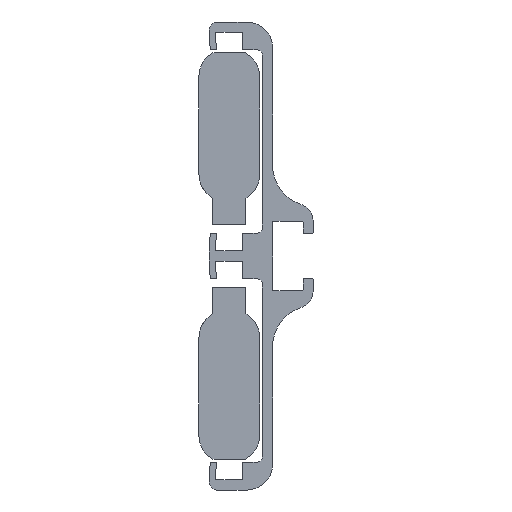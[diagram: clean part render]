
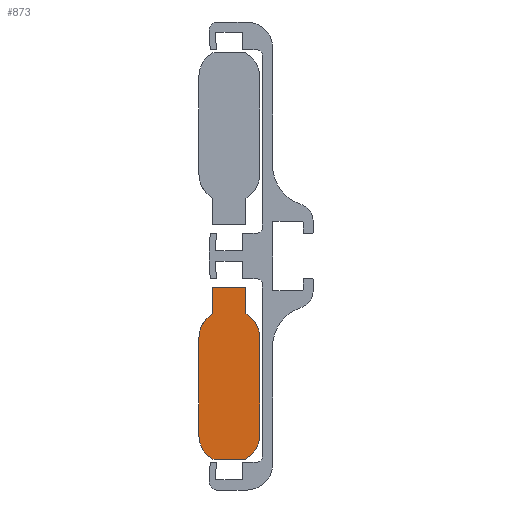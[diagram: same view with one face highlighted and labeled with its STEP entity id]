
A CAD part, left-side view. The second image highlights one B-rep face of the part: STEP entity #873.
In plain terms, the highlighted planar face has unit normal (-1, 0, 0).
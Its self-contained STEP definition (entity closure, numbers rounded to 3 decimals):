
#585=EDGE_CURVE('',#1547,#1548,#1549,.T.);
#637=EDGE_CURVE('',#1540,#1627,#1628,.T.);
#681=EDGE_CURVE('',#1698,#1699,#1700,.T.);
#711=EDGE_CURVE('',#1627,#1547,#1741,.T.);
#769=EDGE_CURVE('',#1825,#1826,#1827,.T.);
#815=EDGE_CURVE('',#1841,#1540,#1889,.T.);
#873=ADVANCED_FACE('',(#1969),#1970,.F.);
#883=EDGE_CURVE('',#1699,#1984,#1985,.T.);
#913=EDGE_CURVE('',#1548,#1698,#2022,.T.);
#923=EDGE_CURVE('',#1826,#1841,#2035,.T.);
#1111=EDGE_CURVE('',#1984,#1825,#2264,.T.);
#1540=VERTEX_POINT('',#2833);
#1547=VERTEX_POINT('',#2844);
#1548=VERTEX_POINT('',#2845);
#1549=B_SPLINE_CURVE_WITH_KNOTS('',3,(#2846,#2847,#2848,#2849,#2850,#2851,#2852,#2853,#2854,#2855,#2856,#2857,#2858,#2859,#2860,#2861),.UNSPECIFIED.,.F.,.F.,(4,1,1,1,1,1,1,1,1,1,1,1,1,4),(0.0,0.202,0.403,0.806,1.21,1.613,2.043,2.472,3.332,3.592,4.111,5.15,5.79,5.825),.UNSPECIFIED.);
#1627=VERTEX_POINT('',#2991);
#1628=LINE('',#2992,#2993);
#1698=VERTEX_POINT('',#3106);
#1699=VERTEX_POINT('',#3107);
#1700=B_SPLINE_CURVE_WITH_KNOTS('',3,(#3108,#3109,#3110,#3111,#3112,#3113,#3114,#3115,#3116,#3117,#3118,#3119,#3120,#3121,#3122,#3123,#3124,#3125,#3126,#3127,#3128),.UNSPECIFIED.,.F.,.F.,(4,1,1,1,1,1,1,1,1,1,1,1,1,1,1,1,1,1,4),(0.0,0.,0.001,0.374,0.747,1.119,1.492,1.865,2.238,2.611,2.984,3.357,3.729,4.102,4.475,4.848,5.221,5.594,5.967),.UNSPECIFIED.);
#1741=LINE('',#3188,#3189);
#1825=VERTEX_POINT('',#3312);
#1826=VERTEX_POINT('',#3313);
#1827=LINE('',#3314,#3315);
#1841=VERTEX_POINT('',#3334);
#1889=LINE('',#3401,#3402);
#1969=FACE_OUTER_BOUND('',#3527,.T.);
#1970=PLANE('',#3528);
#1984=VERTEX_POINT('',#3546);
#1985=LINE('',#3547,#3548);
#2022=LINE('',#3620,#3621);
#2035=B_SPLINE_CURVE_WITH_KNOTS('',3,(#3640,#3641,#3642,#3643,#3644,#3645,#3646,#3647,#3648,#3649,#3650,#3651,#3652,#3653,#3654),.UNSPECIFIED.,.F.,.F.,(4,1,1,1,1,1,1,1,1,1,1,1,4),(0.0,0.071,0.955,1.159,1.567,2.552,3.071,3.592,3.852,4.346,4.839,5.578,5.825),.UNSPECIFIED.);
#2264=B_SPLINE_CURVE_WITH_KNOTS('',3,(#4088,#4089,#4090,#4091,#4092,#4093,#4094,#4095,#4096,#4097,#4098,#4099,#4100,#4101,#4102,#4103,#4104,#4105,#4106),.UNSPECIFIED.,.F.,.F.,(4,1,1,1,1,1,1,1,1,1,1,1,1,1,1,1,4),(0.0,0.373,0.746,1.119,1.491,1.864,2.237,2.61,2.983,3.356,3.729,4.101,4.474,4.847,5.22,5.593,5.967),.UNSPECIFIED.);
#2833=CARTESIAN_POINT('',(-3000.0,10.75,-28.95));
#2844=CARTESIAN_POINT('',(-3000.0,4.25,-34.08));
#2845=CARTESIAN_POINT('',(-3000.0,1.502,-38.891));
#2846=CARTESIAN_POINT('',(-3000.0,4.25,-34.08));
#2847=CARTESIAN_POINT('',(-3000.0,4.191,-34.113));
#2848=CARTESIAN_POINT('',(-3000.0,4.075,-34.18));
#2849=CARTESIAN_POINT('',(-3000.0,3.848,-34.324));
#2850=CARTESIAN_POINT('',(-3000.0,3.574,-34.519));
#2851=CARTESIAN_POINT('',(-3000.0,3.264,-34.777));
#2852=CARTESIAN_POINT('',(-3000.0,2.968,-35.065));
#2853=CARTESIAN_POINT('',(-3000.0,2.69,-35.381));
#2854=CARTESIAN_POINT('',(-3000.0,2.347,-35.84));
#2855=CARTESIAN_POINT('',(-3000.0,2.089,-36.289));
#2856=CARTESIAN_POINT('',(-3000.0,1.868,-36.789));
#2857=CARTESIAN_POINT('',(-3000.0,1.664,-37.361));
#2858=CARTESIAN_POINT('',(-3000.0,1.519,-38.083));
#2859=CARTESIAN_POINT('',(-3000.0,1.496,-38.654));
#2860=CARTESIAN_POINT('',(-3000.0,1.502,-38.879));
#2861=CARTESIAN_POINT('',(-3000.0,1.502,-38.891));
#2991=CARTESIAN_POINT('',(-3000.0,4.25,-28.95));
#2992=CARTESIAN_POINT('',(-3000.0,7.5,-28.95));
#2993=VECTOR('',#4755,1.0);
#3106=CARTESIAN_POINT('',(-3000.0,1.5,-57.949));
#3107=CARTESIAN_POINT('',(-3000.0,4.5,-62.75));
#3108=CARTESIAN_POINT('',(-3000.0,1.5,-57.949));
#3109=CARTESIAN_POINT('',(-3000.0,1.5,-57.949));
#3110=CARTESIAN_POINT('',(-3000.0,1.5,-57.95));
#3111=CARTESIAN_POINT('',(-3000.0,1.5,-58.074));
#3112=CARTESIAN_POINT('',(-3000.0,1.509,-58.323));
#3113=CARTESIAN_POINT('',(-3000.0,1.548,-58.694));
#3114=CARTESIAN_POINT('',(-3000.0,1.613,-59.061));
#3115=CARTESIAN_POINT('',(-3000.0,1.703,-59.423));
#3116=CARTESIAN_POINT('',(-3000.0,1.818,-59.778));
#3117=CARTESIAN_POINT('',(-3000.0,1.958,-60.124));
#3118=CARTESIAN_POINT('',(-3000.0,2.122,-60.459));
#3119=CARTESIAN_POINT('',(-3000.0,2.308,-60.782));
#3120=CARTESIAN_POINT('',(-3000.0,2.517,-61.092));
#3121=CARTESIAN_POINT('',(-3000.0,2.747,-61.386));
#3122=CARTESIAN_POINT('',(-3000.0,2.996,-61.663));
#3123=CARTESIAN_POINT('',(-3000.0,3.265,-61.922));
#3124=CARTESIAN_POINT('',(-3000.0,3.55,-62.162));
#3125=CARTESIAN_POINT('',(-3000.0,3.852,-62.381));
#3126=CARTESIAN_POINT('',(-3000.0,4.169,-62.579));
#3127=CARTESIAN_POINT('',(-3000.0,4.388,-62.696));
#3128=CARTESIAN_POINT('',(-3000.0,4.5,-62.75));
#3188=CARTESIAN_POINT('',(-3000.0,4.25,-28.95));
#3189=VECTOR('',#4884,1.0);
#3312=CARTESIAN_POINT('',(-3000.0,13.5,-57.949));
#3313=CARTESIAN_POINT('',(-3000.0,13.498,-38.891));
#3314=CARTESIAN_POINT('',(-3000.0,13.498,-38.891));
#3315=VECTOR('',#5009,1.0);
#3334=CARTESIAN_POINT('',(-3000.0,10.75,-34.08));
#3401=CARTESIAN_POINT('',(-3000.0,10.75,-28.95));
#3402=VECTOR('',#5089,1.0);
#3527=EDGE_LOOP('',(#5198,#5199,#5200,#5201,#5202,#5203,#5204,#5205,#5206,#5207));
#3528=AXIS2_PLACEMENT_3D('',#5208,#5209,#5210);
#3546=CARTESIAN_POINT('',(-3000.0,10.5,-62.75));
#3547=CARTESIAN_POINT('',(-3000.0,7.5,-62.75));
#3548=VECTOR('',#5231,1.0);
#3620=CARTESIAN_POINT('',(-3000.0,1.502,-38.891));
#3621=VECTOR('',#5265,1.0);
#3640=CARTESIAN_POINT('',(-3000.0,13.498,-38.891));
#3641=CARTESIAN_POINT('',(-3000.0,13.499,-38.868));
#3642=CARTESIAN_POINT('',(-3000.0,13.505,-38.549));
#3643=CARTESIAN_POINT('',(-3000.0,13.478,-38.162));
#3644=CARTESIAN_POINT('',(-3000.0,13.393,-37.671));
#3645=CARTESIAN_POINT('',(-3000.0,13.272,-37.152));
#3646=CARTESIAN_POINT('',(-3000.0,13.047,-36.553));
#3647=CARTESIAN_POINT('',(-3000.0,12.723,-35.96));
#3648=CARTESIAN_POINT('',(-3000.0,12.479,-35.601));
#3649=CARTESIAN_POINT('',(-3000.0,12.215,-35.268));
#3650=CARTESIAN_POINT('',(-3000.0,11.934,-34.961));
#3651=CARTESIAN_POINT('',(-3000.0,11.507,-34.574));
#3652=CARTESIAN_POINT('',(-3000.0,11.106,-34.286));
#3653=CARTESIAN_POINT('',(-3000.0,10.822,-34.12));
#3654=CARTESIAN_POINT('',(-3000.0,10.75,-34.08));
#4088=CARTESIAN_POINT('',(-3000.0,10.5,-62.75));
#4089=CARTESIAN_POINT('',(-3000.0,10.612,-62.696));
#4090=CARTESIAN_POINT('',(-3000.0,10.831,-62.579));
#4091=CARTESIAN_POINT('',(-3000.0,11.148,-62.381));
#4092=CARTESIAN_POINT('',(-3000.0,11.45,-62.162));
#4093=CARTESIAN_POINT('',(-3000.0,11.735,-61.922));
#4094=CARTESIAN_POINT('',(-3000.0,12.004,-61.663));
#4095=CARTESIAN_POINT('',(-3000.0,12.253,-61.386));
#4096=CARTESIAN_POINT('',(-3000.0,12.483,-61.092));
#4097=CARTESIAN_POINT('',(-3000.0,12.692,-60.782));
#4098=CARTESIAN_POINT('',(-3000.0,12.878,-60.459));
#4099=CARTESIAN_POINT('',(-3000.0,13.042,-60.124));
#4100=CARTESIAN_POINT('',(-3000.0,13.182,-59.778));
#4101=CARTESIAN_POINT('',(-3000.0,13.297,-59.423));
#4102=CARTESIAN_POINT('',(-3000.0,13.387,-59.061));
#4103=CARTESIAN_POINT('',(-3000.0,13.452,-58.694));
#4104=CARTESIAN_POINT('',(-3000.0,13.491,-58.323));
#4105=CARTESIAN_POINT('',(-3000.0,13.5,-58.074));
#4106=CARTESIAN_POINT('',(-3000.0,13.5,-57.949));
#4755=DIRECTION('',(-0.0,-1.0,0.));
#4884=DIRECTION('',(0.0,0.,-1.));
#5009=DIRECTION('',(0.,0.,1.));
#5089=DIRECTION('',(0.,0.,1.));
#5198=ORIENTED_EDGE('',*,*,#883,.F.);
#5199=ORIENTED_EDGE('',*,*,#681,.F.);
#5200=ORIENTED_EDGE('',*,*,#913,.F.);
#5201=ORIENTED_EDGE('',*,*,#585,.F.);
#5202=ORIENTED_EDGE('',*,*,#711,.F.);
#5203=ORIENTED_EDGE('',*,*,#637,.F.);
#5204=ORIENTED_EDGE('',*,*,#815,.F.);
#5205=ORIENTED_EDGE('',*,*,#923,.F.);
#5206=ORIENTED_EDGE('',*,*,#769,.F.);
#5207=ORIENTED_EDGE('',*,*,#1111,.F.);
#5208=CARTESIAN_POINT('',(-3000.0,7.5,-45.93));
#5209=DIRECTION('',(1.0,0.,0.));
#5210=DIRECTION('',(0.,0.0,-1.0));
#5231=DIRECTION('',(0.0,1.0,0.0));
#5265=DIRECTION('',(0.,0.,-1.));
